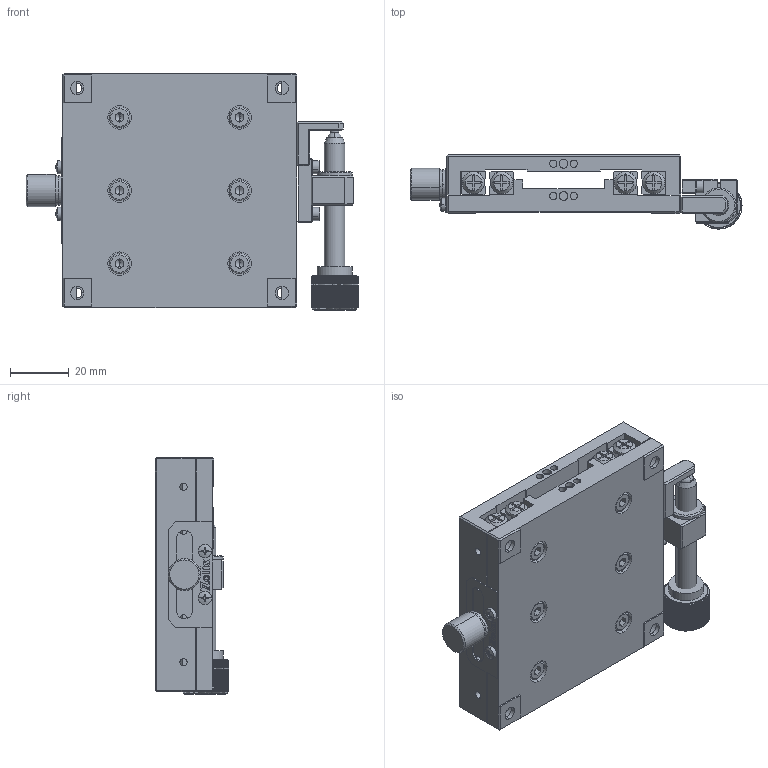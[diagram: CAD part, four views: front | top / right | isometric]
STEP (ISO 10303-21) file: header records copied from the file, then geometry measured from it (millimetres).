
FILE_DESCRIPTION (( 'STEP AP203' ), '1' );
FILE_NAME ('AK25-8020LZ.step', '2019-05-08T06:32:41', ( '' ), ( '' ), 'SwSTEP 2.0', 'SolidWorks 2017', '' );
FILE_SCHEMA (( 'CONFIG_CONTROL_DESIGN' ));
Length unit declared in the file: millimetre
Products named in the file (1): AK25-8020LZ
Bounding box: 113.5 x 25.2 x 81 mm (x, y, z)
Surface area: 47592.2 mm2 (no closed solid volume)
Topology: 0 solids, 40 shells, 1268 faces, 3781 edges, 2464 vertices
Faces by surface type: plane 755, cylinder 294, cone 179, torus 34, sphere 6
Entity records: 42564 total; most frequent: CARTESIAN_POINT 9160, DIRECTION 6827, ORIENTED_EDGE 6659, EDGE_CURVE 3745, VERTEX_POINT 2464, AXIS2_PLACEMENT_3D 2351, VECTOR 2125, LINE 2125
